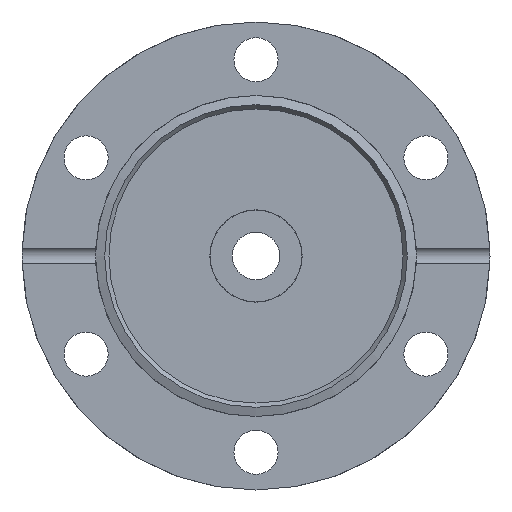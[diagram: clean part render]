
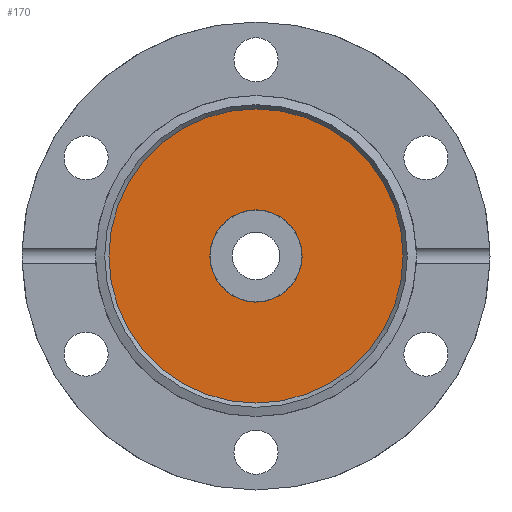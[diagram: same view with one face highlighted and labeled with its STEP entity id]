
A CAD part, left-side view. The second image highlights one B-rep face of the part: STEP entity #170.
In plain terms, the highlighted planar face has unit normal (-1, 0, 0).
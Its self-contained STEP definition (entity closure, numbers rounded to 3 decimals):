
#170 = ADVANCED_FACE( '', ( #351, #352 ), #353, .F. );
#351 = FACE_BOUND( '', #529, .T. );
#352 = FACE_OUTER_BOUND( '', #530, .T. );
#353 = PLANE( '', #531 );
#529 = EDGE_LOOP( '', ( #823 ) );
#530 = EDGE_LOOP( '', ( #824 ) );
#531 = AXIS2_PLACEMENT_3D( '', #825, #826, #827 );
#823 = ORIENTED_EDGE( '', *, *, #910, .F. );
#824 = ORIENTED_EDGE( '', *, *, #968, .T. );
#825 = CARTESIAN_POINT( '', ( -11.4, 0., 22. ) );
#826 = DIRECTION( '', ( 1., 0., 0. ) );
#827 = DIRECTION( '', ( 0., 0., -1. ) );
#910 = EDGE_CURVE( '', #1040, #1040, #1041, .T. );
#968 = EDGE_CURVE( '', #1136, #1136, #1137, .T. );
#1040 = VERTEX_POINT( '', #1231 );
#1041 = CIRCLE( '', #1232, 6.9 );
#1136 = VERTEX_POINT( '', #1396 );
#1137 = CIRCLE( '', #1397, 22. );
#1231 = CARTESIAN_POINT( '', ( -11.4, 0., 6.9 ) );
#1232 = AXIS2_PLACEMENT_3D( '', #1487, #1488, #1489 );
#1396 = CARTESIAN_POINT( '', ( -11.4, 0., 22. ) );
#1397 = AXIS2_PLACEMENT_3D( '', #1570, #1571, #1572 );
#1487 = CARTESIAN_POINT( '', ( -11.4, 0., 0. ) );
#1488 = DIRECTION( '', ( -1., 0., 0. ) );
#1489 = DIRECTION( '', ( 0., 0., 1. ) );
#1570 = CARTESIAN_POINT( '', ( -11.4, 0., 0. ) );
#1571 = DIRECTION( '', ( -1., 0., 0. ) );
#1572 = DIRECTION( '', ( 0., 0., 1. ) );
